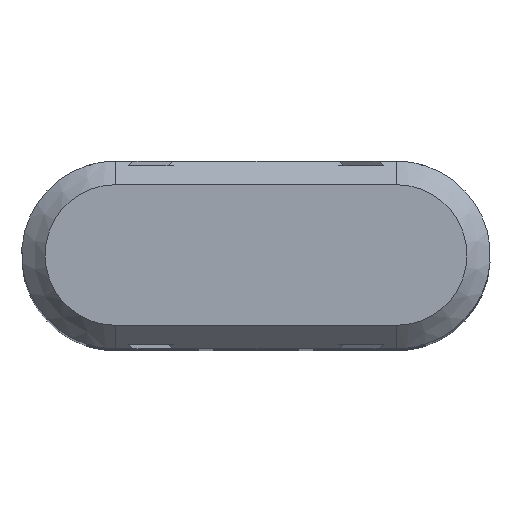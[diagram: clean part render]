
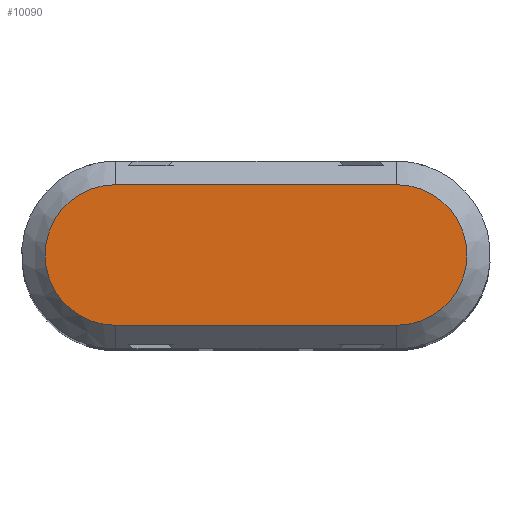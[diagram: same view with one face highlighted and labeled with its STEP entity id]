
A CAD part, top view. The second image highlights one B-rep face of the part: STEP entity #10090.
In plain terms, the highlighted planar face has unit normal (0, 0, 1).
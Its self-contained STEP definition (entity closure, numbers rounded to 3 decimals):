
#9680=CARTESIAN_POINT('',(13.869,4.044,-27.4));
#9690=DIRECTION('',(0.,0.,-1.));
#9700=DIRECTION('',(-1.,0.,0.));
#9710=AXIS2_PLACEMENT_3D('',#9680,#9690,#9700);
#9720=PLANE('',#9710);
#9730=CARTESIAN_POINT('',(7.869,4.044,-27.4));
#9740=DIRECTION('',(0.,0.,-1.));
#9750=DIRECTION('',(-1.,0.,0.));
#9760=AXIS2_PLACEMENT_3D('',#9730,#9740,#9750);
#9770=CIRCLE('',#9760,3.);
#9780=CARTESIAN_POINT('',(7.869,1.044,-27.4));
#9790=VERTEX_POINT('',#9780);
#9800=CARTESIAN_POINT('',(7.869,7.044,-27.4));
#9810=VERTEX_POINT('',#9800);
#9820=EDGE_CURVE('',#9790,#9810,#9770,.T.);
#9830=ORIENTED_EDGE('',*,*,#9820,.F.);
#9840=CARTESIAN_POINT('',(13.869,7.044,-27.4));
#9850=DIRECTION('',(1.,0.,0.));
#9860=VECTOR('',#9850,1.);
#9870=LINE('',#9840,#9860);
#9880=CARTESIAN_POINT('',(19.869,7.044,-27.4));
#9890=VERTEX_POINT('',#9880);
#9900=EDGE_CURVE('',#9810,#9890,#9870,.T.);
#9910=ORIENTED_EDGE('',*,*,#9900,.F.);
#9920=CARTESIAN_POINT('',(19.869,4.044,-27.4));
#9930=DIRECTION('',(0.,0.,-1.));
#9940=DIRECTION('',(-1.,0.,0.));
#9950=AXIS2_PLACEMENT_3D('',#9920,#9930,#9940);
#9960=CIRCLE('',#9950,3.);
#9970=CARTESIAN_POINT('',(19.869,1.044,-27.4));
#9980=VERTEX_POINT('',#9970);
#9990=EDGE_CURVE('',#9890,#9980,#9960,.T.);
#10000=ORIENTED_EDGE('',*,*,#9990,.F.);
#10010=CARTESIAN_POINT('',(13.869,1.044,-27.4));
#10020=DIRECTION('',(-1.,0.,0.));
#10030=VECTOR('',#10020,1.);
#10040=LINE('',#10010,#10030);
#10050=EDGE_CURVE('',#9980,#9790,#10040,.T.);
#10060=ORIENTED_EDGE('',*,*,#10050,.F.);
#10070=EDGE_LOOP('',(#10060,#10000,#9910,#9830));
#10080=FACE_OUTER_BOUND('',#10070,.T.);
#10090=ADVANCED_FACE('',(#10080),#9720,.F.);
